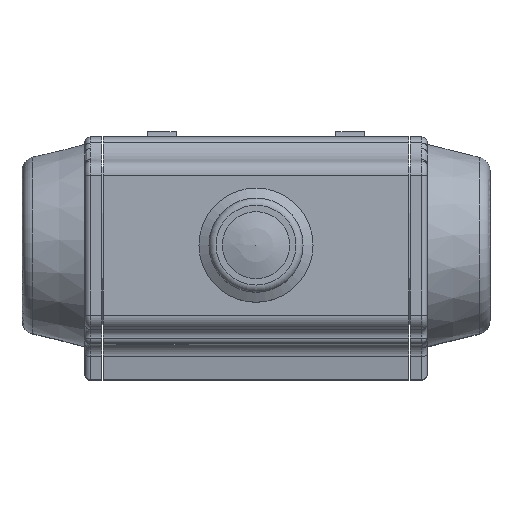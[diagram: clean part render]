
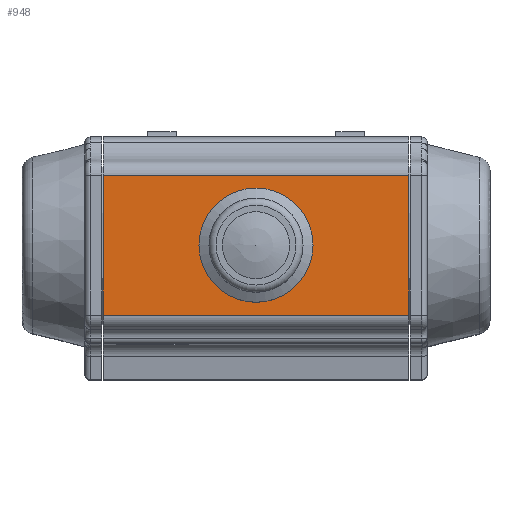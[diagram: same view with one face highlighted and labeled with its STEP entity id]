
A CAD part, top view. The second image highlights one B-rep face of the part: STEP entity #948.
In plain terms, the highlighted planar face has unit normal (0, 0, 1).
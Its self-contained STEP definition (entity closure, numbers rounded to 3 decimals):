
#948 = ADVANCED_FACE( '', ( #2312, #2313 ), #2314, .T. );
#2312 = FACE_BOUND( '', #5235, .T. );
#2313 = FACE_OUTER_BOUND( '', #5236, .T. );
#2314 = PLANE( '', #5237 );
#5235 = EDGE_LOOP( '', ( #10207 ) );
#5236 = EDGE_LOOP( '', ( #10208, #10209, #10210, #10211 ) );
#5237 = AXIS2_PLACEMENT_3D( '', #10212, #10213, #10214 );
#10207 = ORIENTED_EDGE( '', *, *, #14518, .F. );
#10208 = ORIENTED_EDGE( '', *, *, #14519, .F. );
#10209 = ORIENTED_EDGE( '', *, *, #14106, .F. );
#10210 = ORIENTED_EDGE( '', *, *, #14520, .T. );
#10211 = ORIENTED_EDGE( '', *, *, #14521, .T. );
#10212 = CARTESIAN_POINT( '', ( 53.5, -24.5, 42. ) );
#10213 = DIRECTION( '', ( 0., 0., 1. ) );
#10214 = DIRECTION( '', ( 1., 0., 0. ) );
#14106 = EDGE_CURVE( '', #16306, #16302, #16308, .T. );
#14518 = EDGE_CURVE( '', #16966, #16966, #16967, .T. );
#14519 = EDGE_CURVE( '', #16302, #16968, #16969, .T. );
#14520 = EDGE_CURVE( '', #16306, #16970, #16971, .T. );
#14521 = EDGE_CURVE( '', #16970, #16968, #16972, .T. );
#16302 = VERTEX_POINT( '', #20541 );
#16306 = VERTEX_POINT( '', #20546 );
#16308 = LINE( '', #20548, #20549 );
#16966 = VERTEX_POINT( '', #22591 );
#16967 = CIRCLE( '', #22592, 20. );
#16968 = VERTEX_POINT( '', #22593 );
#16969 = LINE( '', #22594, #22595 );
#16970 = VERTEX_POINT( '', #22596 );
#16971 = LINE( '', #22597, #22598 );
#16972 = LINE( '', #22599, #22600 );
#20541 = CARTESIAN_POINT( '', ( -53.5, -24.5, 42. ) );
#20546 = CARTESIAN_POINT( '', ( 53.5, -24.5, 42. ) );
#20548 = CARTESIAN_POINT( '', ( 53.5, -24.5, 42. ) );
#20549 = VECTOR( '', #26145, 1000. );
#22591 = CARTESIAN_POINT( '', ( 20., 0., 42. ) );
#22592 = AXIS2_PLACEMENT_3D( '', #26521, #26522, #26523 );
#22593 = CARTESIAN_POINT( '', ( -53.5, 24.5, 42. ) );
#22594 = CARTESIAN_POINT( '', ( -53.5, -24.5, 42. ) );
#22595 = VECTOR( '', #26524, 1000. );
#22596 = CARTESIAN_POINT( '', ( 53.5, 24.5, 42. ) );
#22597 = CARTESIAN_POINT( '', ( 53.5, -24.5, 42. ) );
#22598 = VECTOR( '', #26525, 1000. );
#22599 = CARTESIAN_POINT( '', ( 53.5, 24.5, 42. ) );
#22600 = VECTOR( '', #26526, 1000. );
#26145 = DIRECTION( '', ( -1., 0., 0. ) );
#26521 = CARTESIAN_POINT( '', ( 0., 0., 42. ) );
#26522 = DIRECTION( '', ( 0., 0., 1. ) );
#26523 = DIRECTION( '', ( 1., 0., 0. ) );
#26524 = DIRECTION( '', ( 0., 1., 0. ) );
#26525 = DIRECTION( '', ( 0., 1., 0. ) );
#26526 = DIRECTION( '', ( -1., 0., 0. ) );
